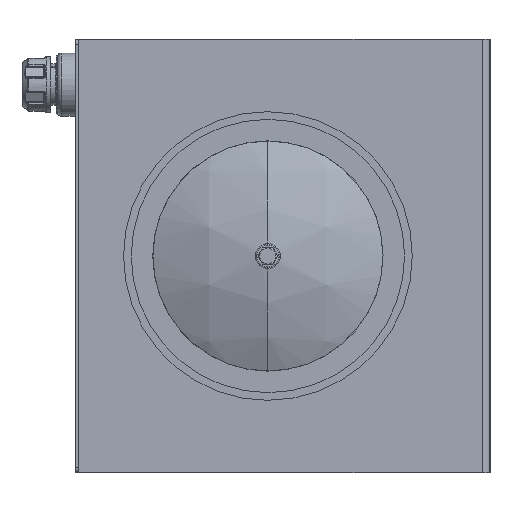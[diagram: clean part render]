
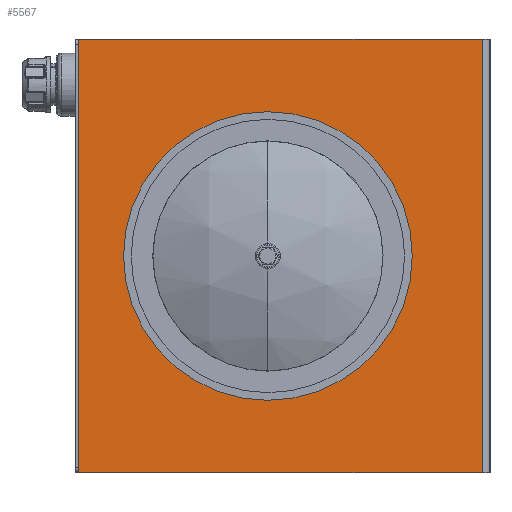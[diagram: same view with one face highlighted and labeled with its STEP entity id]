
A CAD part, left-side view. The second image highlights one B-rep face of the part: STEP entity #5567.
In plain terms, the highlighted planar face has unit normal (-1, 0, 0).
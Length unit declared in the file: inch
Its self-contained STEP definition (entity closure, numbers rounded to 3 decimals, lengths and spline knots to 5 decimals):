
#1 = FACE_OUTER_BOUND ( 'NONE', #4593, .T. ) ;
#211 = ORIENTED_EDGE ( 'NONE', *, *, #4457, .T. ) ;
#1315 = DIRECTION ( 'NONE',  ( 0., 0., 1. ) ) ;
#1337 = CARTESIAN_POINT ( 'NONE',  ( -20.88077, -10.66897, -12.35586 ) ) ;
#1642 = LINE ( 'NONE', #6571, #20379 ) ;
#1845 = VECTOR ( 'NONE', #13097, 39.37008 ) ;
#1864 = VERTEX_POINT ( 'NONE', #4472 ) ;
#2639 = DIRECTION ( 'NONE',  ( -1., 0., 0. ) ) ;
#2864 = CARTESIAN_POINT ( 'NONE',  ( -20.88077, 11.71173, -12.35586 ) ) ;
#2919 = ORIENTED_EDGE ( 'NONE', *, *, #6294, .T. ) ;
#3247 = AXIS2_PLACEMENT_3D ( 'NONE', #4564, #4036, #3983 ) ;
#3416 = EDGE_LOOP ( 'NONE', ( #8169, #8440 ) ) ;
#3983 = DIRECTION ( 'NONE',  ( 0., 0., -1. ) ) ;
#4036 = DIRECTION ( 'NONE',  ( 1., 0., 0. ) ) ;
#4067 = PLANE ( 'NONE',  #3247 ) ;
#4457 = EDGE_CURVE ( 'NONE', #21175, #13230, #16445, .T. ) ;
#4472 = CARTESIAN_POINT ( 'NONE',  ( -20.88077, 1.21173, 5.76914 ) ) ;
#4564 = CARTESIAN_POINT ( 'NONE',  ( -20.88077, 11.71173, -12.35586 ) ) ;
#4593 = EDGE_LOOP ( 'NONE', ( #8973, #15741, #2919, #211 ) ) ;
#5006 = FACE_BOUND ( 'NONE', #3416, .T. ) ;
#5567 = ADVANCED_FACE ( 'NONE', ( #5006, #1 ), #4067, .F. ) ;
#5688 = CIRCLE ( 'NONE', #17688, 6.125 ) ;
#6294 = EDGE_CURVE ( 'NONE', #12647, #21175, #6375, .T. ) ;
#6375 = LINE ( 'NONE', #2864, #19647 ) ;
#6500 = DIRECTION ( 'NONE',  ( 0., 0., -1. ) ) ;
#6571 = CARTESIAN_POINT ( 'NONE',  ( -20.88077, -10.66897, -12.35586 ) ) ;
#6800 = DIRECTION ( 'NONE',  ( 0., 1., 0. ) ) ;
#7001 = VERTEX_POINT ( 'NONE', #13504 ) ;
#8169 = ORIENTED_EDGE ( 'NONE', *, *, #10057, .F. ) ;
#8440 = ORIENTED_EDGE ( 'NONE', *, *, #8923, .F. ) ;
#8923 = EDGE_CURVE ( 'NONE', #9489, #1864, #10525, .T. ) ;
#8973 = ORIENTED_EDGE ( 'NONE', *, *, #9561, .T. ) ;
#9489 = VERTEX_POINT ( 'NONE', #19003 ) ;
#9561 = EDGE_CURVE ( 'NONE', #13230, #7001, #1642, .T. ) ;
#10057 = EDGE_CURVE ( 'NONE', #1864, #9489, #5688, .T. ) ;
#10525 = CIRCLE ( 'NONE', #21369, 6.125 ) ;
#11693 = EDGE_CURVE ( 'NONE', #7001, #12647, #20033, .T. ) ;
#11894 = DIRECTION ( 'NONE',  ( -1., 0., 0. ) ) ;
#12120 = CARTESIAN_POINT ( 'NONE',  ( -20.88077, -11.09827, -12.35586 ) ) ;
#12647 = VERTEX_POINT ( 'NONE', #22136 ) ;
#13097 = DIRECTION ( 'NONE',  ( 0., -1., 0. ) ) ;
#13118 = CARTESIAN_POINT ( 'NONE',  ( -20.88077, 1.21173, -0.35586 ) ) ;
#13230 = VERTEX_POINT ( 'NONE', #1337 ) ;
#13504 = CARTESIAN_POINT ( 'NONE',  ( -20.88077, -10.66897, 11.64414 ) ) ;
#14903 = DIRECTION ( 'NONE',  ( 0., 0., 1. ) ) ;
#15351 = VECTOR ( 'NONE', #6800, 39.37008 ) ;
#15741 = ORIENTED_EDGE ( 'NONE', *, *, #11693, .T. ) ;
#16445 = LINE ( 'NONE', #12120, #1845 ) ;
#17189 = CARTESIAN_POINT ( 'NONE',  ( -20.88077, 11.71173, -12.35586 ) ) ;
#17226 = CARTESIAN_POINT ( 'NONE',  ( -20.88077, -11.09827, 11.64414 ) ) ;
#17688 = AXIS2_PLACEMENT_3D ( 'NONE', #13118, #2639, #14903 ) ;
#18666 = DIRECTION ( 'NONE',  ( 0., 0., 1. ) ) ;
#19003 = CARTESIAN_POINT ( 'NONE',  ( -20.88077, 1.21173, -6.48086 ) ) ;
#19647 = VECTOR ( 'NONE', #6500, 39.37008 ) ;
#20033 = LINE ( 'NONE', #17226, #15351 ) ;
#20379 = VECTOR ( 'NONE', #18666, 39.37008 ) ;
#21175 = VERTEX_POINT ( 'NONE', #17189 ) ;
#21369 = AXIS2_PLACEMENT_3D ( 'NONE', #22401, #11894, #1315 ) ;
#22136 = CARTESIAN_POINT ( 'NONE',  ( -20.88077, 11.71173, 11.64414 ) ) ;
#22401 = CARTESIAN_POINT ( 'NONE',  ( -20.88077, 1.21173, -0.35586 ) ) ;
